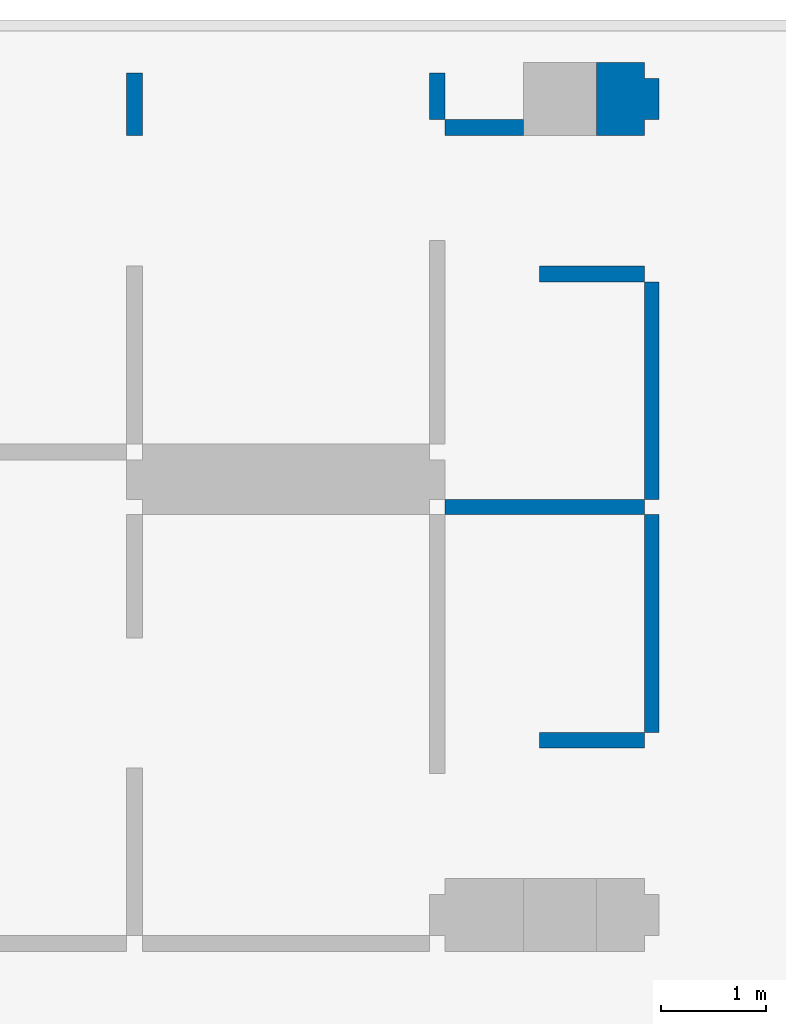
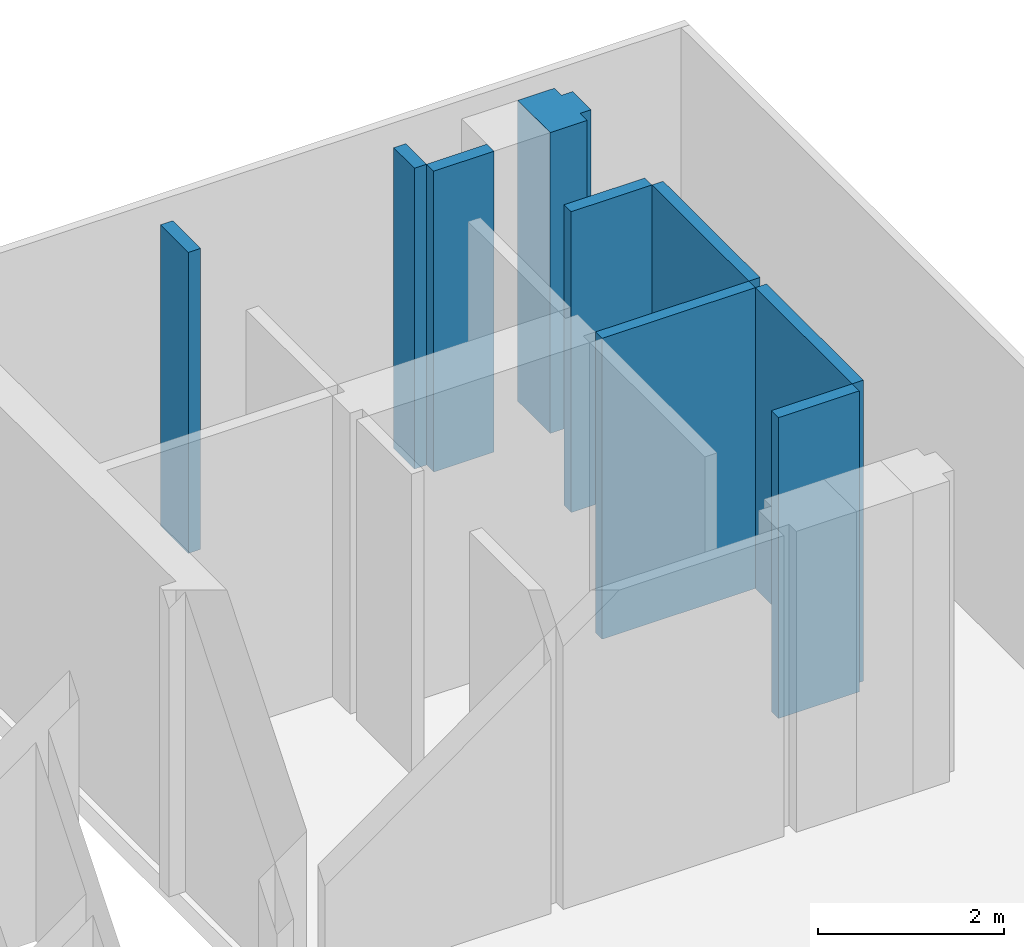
# One storey, part 3 of 4: 9 walls.
"""IFC4 building model written with IfcOpenShell, lengths in millimetres."""

from ifc_helpers import new_model, si_unit, frame, origin, place, context, project, spatial, triangles, element, save


model = new_model("IFC4")

# Units and contexts
model_context = context("Model", 3, precision=0.001, world=origin())
ifc_project = project(units=[si_unit("LENGTHUNIT", "METRE", prefix="MILLI"), si_unit("AREAUNIT", "SQUARE_METRE"), si_unit("VOLUMEUNIT", "CUBIC_METRE")], contexts=[model_context])

# Site, building, storey
site_placement = place(None, origin())
site = spatial("IfcSite", under=ifc_project, at=site_placement, Name="Site", CompositionType="ELEMENT")
building_placement = place(site_placement, origin())
building = spatial("IfcBuilding", under=site, at=building_placement, Name="INNOCEAN", CompositionType="ELEMENT")
storey_placement = place(building_placement, frame((0.0, 0.0, 55400.0)))
storey = spatial("IfcBuildingStorey", under=building, at=storey_placement, Name="F13", CompositionType="ELEMENT", Elevation=55400.0)

# Walls
wall_1_placement = place(storey_placement, origin())
element("IfcWall", 1, at=wall_1_placement, inside=storey, Name="F13_Walls_F13_065", context=model_context, shape_type="Tessellation", body=[
    triangles([(43620.0, 25320.0, 0.0), (43620.0, 25320.0, 3950.0), (43770.0, 25320.0, 3950.0), (43770.0, 25320.0, 0.0), (43770.0, 25317.9, 0.0), (43770.0, 25317.9, 3950.0), (43770.5, 25317.9, 0.0), (43770.5, 25317.9, 3950.0), (43770.5, 24721.0, 0.0), (43770.5, 24721.0, 3950.0), (43770.0, 24721.0, 0.0), (43770.0, 24721.0, 3950.0), (43770.0, 24720.0, 0.0), (43770.0, 24720.0, 3950.0), (43620.0, 24720.0, 3950.0), (43620.0, 24720.0, 0.0), (43620.0, 24721.0, 0.0), (43620.0, 24721.0, 3950.0), (43618.2, 24721.0, 3950.0), (43618.2, 24721.0, 0.0), (43618.2, 25317.9, 0.0), (43618.2, 25317.9, 3950.0), (43620.0, 25317.9, 3950.0), (43620.0, 25317.9, 0.0)], [[1, 2, 3], [4, 1, 3], [5, 4, 3], [5, 3, 6], [7, 5, 6], [7, 6, 8], [9, 7, 8], [9, 8, 10], [11, 9, 10], [11, 10, 12], [13, 11, 12], [13, 12, 14], [13, 14, 15], [16, 13, 15], [17, 16, 15], [17, 15, 18], [17, 18, 19], [20, 17, 19], [21, 20, 19], [21, 19, 22], [21, 22, 23], [24, 21, 23], [1, 24, 23], [1, 23, 2], [17, 11, 13], [17, 13, 16], [7, 9, 11], [5, 7, 11], [5, 11, 17], [24, 5, 17], [21, 17, 20], [21, 24, 17], [1, 4, 5], [1, 5, 24], [12, 18, 14], [14, 18, 15], [10, 8, 12], [8, 6, 12], [12, 6, 18], [6, 23, 18], [18, 22, 19], [23, 22, 18], [3, 2, 6], [6, 2, 23]], closed=True),
])
wall_2_placement = place(storey_placement, origin())
element("IfcWall", 2, at=wall_2_placement, inside=storey, Name="F13_Walls_F13_072", context=model_context, shape_type="Tessellation", body=[
    triangles([(48568.5, 18865.7, 0.0), (48568.5, 19018.1, 0.0), (48568.5, 19018.1, 3950.0), (48568.5, 18865.7, 3950.0), (47565.8, 18865.7, 0.0), (47565.8, 18865.7, 3950.0), (47565.8, 19018.1, 0.0), (47565.8, 19018.1, 3950.0)], [[1, 2, 3], [1, 3, 4], [5, 1, 4], [5, 4, 6], [7, 5, 6], [7, 6, 8], [2, 7, 8], [2, 8, 3], [7, 2, 1], [7, 1, 5], [3, 8, 4], [4, 8, 6]], closed=True),
])
wall_3_placement = place(storey_placement, origin())
element("IfcWall", 3, at=wall_3_placement, inside=storey, Name="F13_Walls_F13_074", context=model_context, shape_type="Tessellation", body=[
    triangles([(48708.1, 19018.1, 0.0), (48708.1, 21101.1, 0.0), (48708.1, 21101.1, 3950.0), (48708.1, 19018.1, 3950.0), (48568.5, 19018.1, 0.0), (48568.5, 19018.1, 3950.0), (48568.5, 21101.1, 0.0), (48568.5, 21101.1, 3950.0)], [[1, 2, 3], [1, 3, 4], [5, 1, 4], [5, 4, 6], [7, 5, 6], [7, 6, 8], [2, 7, 8], [2, 8, 3], [7, 2, 1], [7, 1, 5], [3, 8, 4], [4, 8, 6]], closed=True),
])
wall_4_placement = place(storey_placement, origin())
element("IfcWall", 4, at=wall_4_placement, inside=storey, Name="F13_Walls_F13_077", context=model_context, shape_type="Tessellation", body=[
    triangles([(48568.5, 21240.8, 0.0), (48568.5, 21240.8, 3950.0), (48568.5, 21101.1, 3950.0), (48568.5, 21101.1, 0.0), (46664.5, 21101.1, 3950.0), (46664.5, 21101.1, 0.0), (46664.5, 21240.8, 3950.0), (46664.5, 21240.8, 0.0)], [[1, 2, 3], [4, 1, 3], [4, 3, 5], [6, 4, 5], [6, 5, 7], [8, 6, 7], [8, 7, 2], [1, 8, 2], [8, 1, 4], [8, 4, 6], [2, 7, 3], [3, 7, 5]], closed=True),
])
wall_5_placement = place(storey_placement, origin())
element("IfcWall", 5, at=wall_5_placement, inside=storey, Name="F13_Walls_F13_078", context=model_context, shape_type="Tessellation", body=[
    triangles([(48708.1, 21240.8, 0.0), (48708.1, 23323.8, 0.0), (48708.1, 23323.8, 3950.0), (48708.1, 21240.8, 3950.0), (48568.5, 21240.8, 0.0), (48568.5, 21240.8, 3950.0), (48568.5, 23323.8, 0.0), (48568.5, 23323.8, 3950.0)], [[1, 2, 3], [1, 3, 4], [5, 1, 4], [5, 4, 6], [7, 5, 6], [7, 6, 8], [2, 7, 8], [2, 8, 3], [7, 2, 1], [7, 1, 5], [3, 8, 4], [4, 8, 6]], closed=True),
])
wall_6_placement = place(storey_placement, origin())
element("IfcWall", 6, at=wall_6_placement, inside=storey, Name="F13_Walls_F13_081", context=model_context, shape_type="Tessellation", body=[
    triangles([(48568.5, 23323.8, 0.0), (48568.5, 23476.2, 0.0), (48568.5, 23476.2, 3950.0), (48568.5, 23323.8, 3950.0), (47565.8, 23323.8, 0.0), (47565.8, 23323.8, 3950.0), (47565.8, 23476.2, 0.0), (47565.8, 23476.2, 3950.0)], [[1, 2, 3], [1, 3, 4], [5, 1, 4], [5, 4, 6], [7, 5, 6], [7, 6, 8], [2, 7, 8], [2, 8, 3], [7, 2, 1], [7, 1, 5], [3, 8, 4], [4, 8, 6]], closed=True),
])
wall_7_placement = place(storey_placement, origin())
element("IfcWall", 7, at=wall_7_placement, inside=storey, Name="F13_Walls_F13_082", context=model_context, shape_type="Tessellation", body=[
    triangles([(47413.4, 24721.0, 0.0), (47413.4, 24873.4, 0.0), (47413.4, 24873.4, 3950.0), (47413.4, 24721.0, 3950.0), (46664.5, 24721.0, 0.0), (46664.5, 24721.0, 3950.0), (46664.5, 24873.4, 0.0), (46664.5, 24873.4, 3950.0)], [[1, 2, 3], [1, 3, 4], [5, 1, 4], [5, 4, 6], [7, 5, 6], [7, 6, 8], [2, 7, 8], [2, 8, 3], [7, 2, 1], [7, 1, 5], [3, 8, 4], [4, 8, 6]], closed=True),
])
wall_8_placement = place(storey_placement, origin())
element("IfcWall", 8, at=wall_8_placement, inside=storey, Name="F13_Walls_F13_083", context=model_context, shape_type="Tessellation", body=[
    triangles([(48568.5, 25419.5, 0.0), (48111.6, 25419.5, 0.0), (48111.6, 25419.5, 3950.0), (48568.5, 25419.5, 3950.0), (48568.5, 25267.1, 0.0), (48568.5, 25267.1, 3950.0), (48708.1, 25267.1, 0.0), (48708.1, 25267.1, 3950.0), (48708.1, 24873.4, 3950.0), (48708.1, 24873.4, 0.0), (48568.5, 24873.4, 0.0), (48568.5, 24873.4, 3950.0), (48568.5, 24721.0, 0.0), (48568.5, 24721.0, 3950.0), (48111.6, 24721.0, 0.0), (48111.6, 24721.0, 3950.0), (48111.6, 24873.4, 0.0), (48111.6, 24873.4, 3950.0), (48111.6, 25267.1, 3950.0), (48111.6, 25267.1, 0.0)], [[1, 2, 3], [1, 3, 4], [5, 1, 4], [5, 4, 6], [7, 5, 6], [7, 6, 8], [7, 8, 9], [10, 7, 9], [11, 10, 9], [11, 9, 12], [13, 11, 12], [13, 12, 14], [15, 13, 14], [15, 14, 16], [17, 15, 16], [17, 16, 18], [17, 18, 19], [20, 17, 19], [2, 20, 19], [2, 19, 3], [7, 10, 11], [5, 7, 11], [17, 11, 13], [17, 13, 15], [20, 11, 17], [20, 5, 11], [2, 1, 5], [2, 5, 20], [9, 8, 12], [8, 6, 12], [12, 18, 14], [14, 18, 16], [12, 19, 18], [6, 19, 12], [4, 3, 6], [6, 3, 19]], closed=True),
])
wall_9_placement = place(storey_placement, origin())
element("IfcWall", 9, at=wall_9_placement, inside=storey, Name="F13_Walls_F13_084", context=model_context, shape_type="Tessellation", body=[
    triangles([(46512.2, 24873.4, 0.0), (46664.5, 24873.4, 0.0), (46664.5, 24873.4, 3950.0), (46512.2, 24873.4, 3950.0), (46512.2, 25317.9, 0.0), (46512.2, 25317.9, 3950.0), (46664.5, 25317.9, 0.0), (46664.5, 25317.9, 3950.0)], [[1, 2, 3], [1, 3, 4], [5, 1, 4], [5, 4, 6], [7, 5, 6], [7, 6, 8], [2, 7, 8], [2, 8, 3], [5, 2, 1], [5, 7, 2], [3, 6, 4], [8, 6, 3]], closed=True),
])

save(model, "model.ifc")
